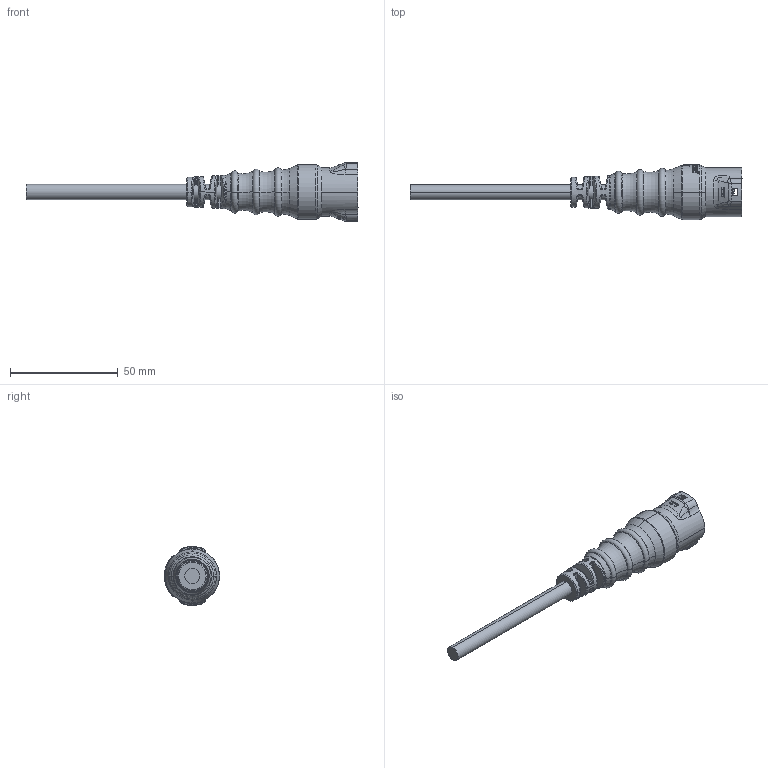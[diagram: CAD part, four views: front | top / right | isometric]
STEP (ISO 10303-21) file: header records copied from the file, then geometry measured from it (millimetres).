
FILE_DESCRIPTION((''),'2;1');
FILE_NAME('CD-XXAFFM-RL8DXX_SW0002','2021-10-28T',('K210213'),(''),'PRO/ENGINEER BY PARAMETRIC TECHNOLOGY CORPORATION, 2013050','PRO/ENGINEER BY PARAMETRIC TECHNOLOGY CORPORATION, 2013050','');
FILE_SCHEMA(('CONFIG_CONTROL_DESIGN'));
Length unit declared in the file: millimetre
Products named in the file (1): CD-XXAFFM-RL8DXX_SW0002
Bounding box: 154.12 x 25.6 x 27.3 mm (x, y, z)
Volume: 25042.6 mm3; surface area: 9327.5 mm2
Topology: 1 solids, 1 shells, 915 faces, 2477 edges, 1602 vertices
Faces by surface type: plane 454, extrusion 202, cylinder 98, bspline 76, cone 44, torus 39, sphere 2
Entity records: 37947 total; most frequent: CARTESIAN_POINT 17426, ORIENTED_EDGE 4954, DIRECTION 3023, EDGE_CURVE 2477, VERTEX_POINT 1602, B_SPLINE_CURVE_WITH_KNOTS 1491, VECTOR 1031, AXIS2_PLACEMENT_3D 996
